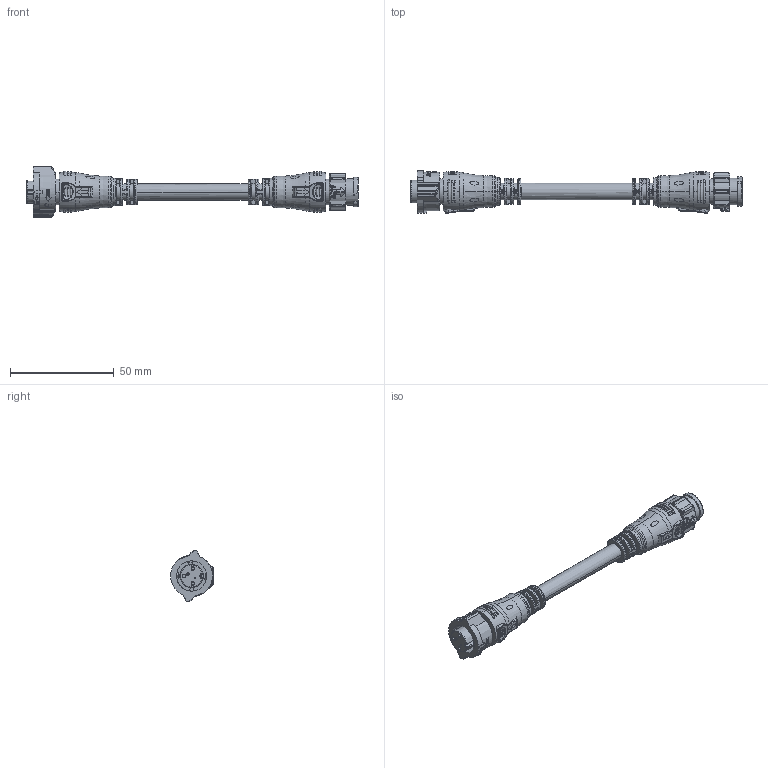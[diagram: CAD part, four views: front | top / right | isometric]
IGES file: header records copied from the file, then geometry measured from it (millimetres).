
Start section:  PTC IGES file: AB-BDXXFL-BDHL-QEXXX.igs
Global section: file name: AB-BDXXFL-BDHL-QEXXX.igs; native system: Creo Parametric by Parametric Technology Corporation; preprocessor: 2017170; author: L050004; organization: Unknown; date: 20200207.144109; units: millimetre
Bounding box: 160.2 x 20.7 x 25 mm (x, y, z)
Volume: 22213.4 mm3; surface area: 11226.6 mm2
Topology: 1 solids, 2 shells, 1431 faces, 3767 edges, 2447 vertices
Faces by surface type: bspline 713, revolution 422, extrusion 296
